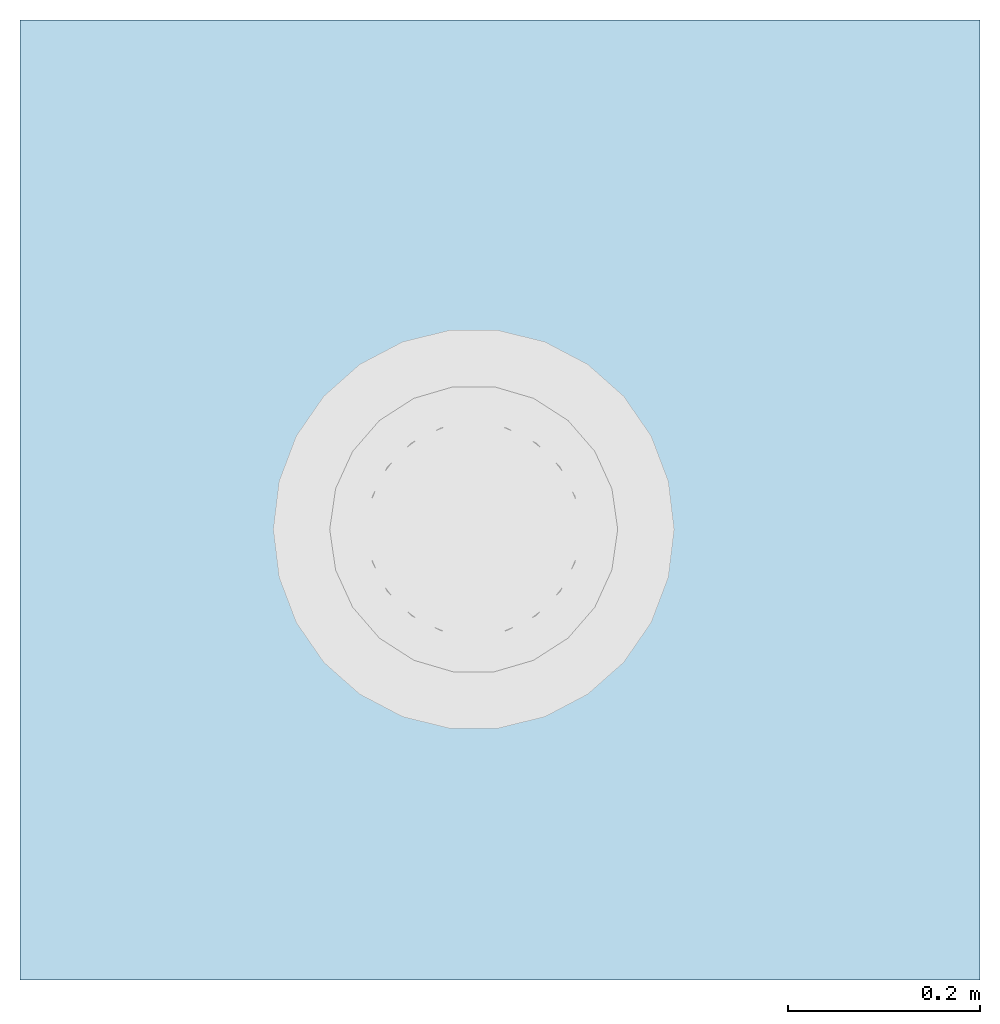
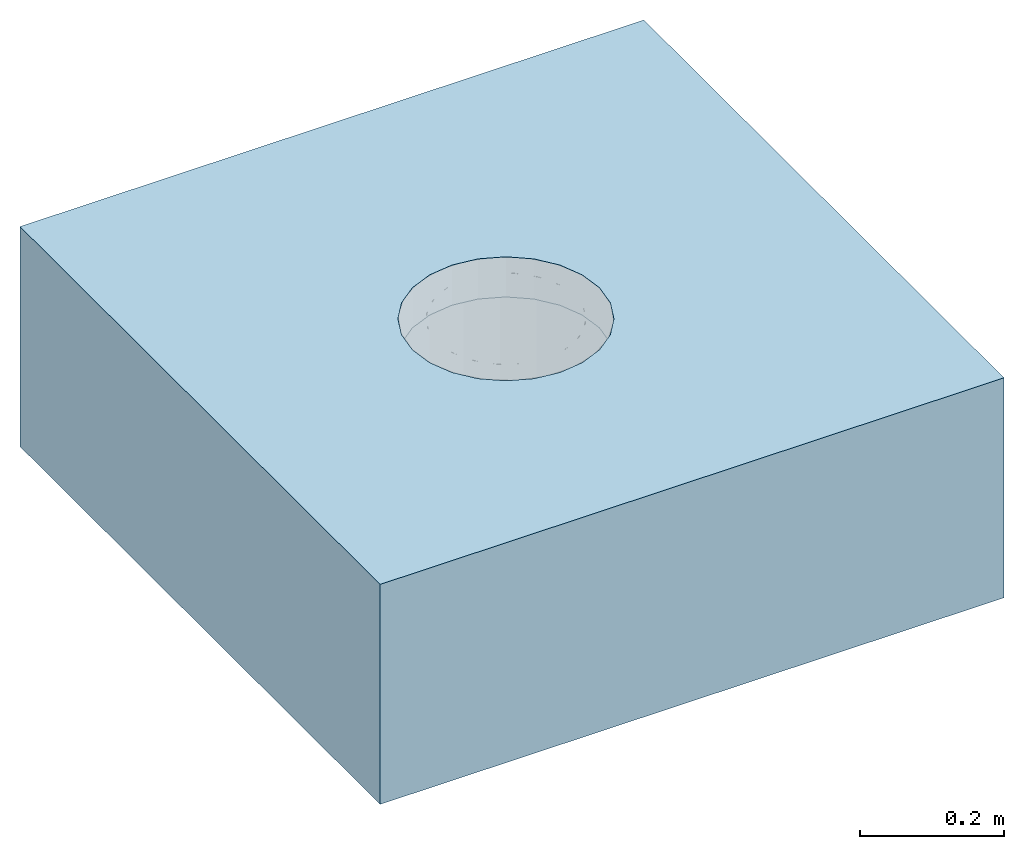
# One storey, incomplete: 1 slab, 1 opening.
"""IFC2X3 building model written with IfcOpenShell, lengths in millimetres."""

from ifc_helpers import new_model, entity, si_unit, converted_unit, derived_unit, direction, frame, frame_2d, origin, place, context, subcontext, project, spatial, rectangle, extrude, faceted_brep, material, layer, layer_set, layer_usage, element, save


model = new_model("IFC2X3")

# Units and contexts
model_context = context("Model", 3, precision=1e-05, world=origin(), true_north=direction((2.0, 6.12303176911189e-17, 1.0)))
context_of_model = context(None, 3, precision=1e-05, world=origin(), true_north=direction((2.0, 6.12303176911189e-17, 1.0)))
body_context = subcontext(model_context, "Body", "Model", "MODEL_VIEW")
ifc_project = project(units=[si_unit("LENGTHUNIT", "METRE", prefix="MILLI"), converted_unit("AREAUNIT", "SQUARE FOOT", entity("IfcRatioMeasure", 0.09290304), si_unit("AREAUNIT", "SQUARE_METRE"), dimensions=[2, 0, 0, 0, 0, 0, 0]), converted_unit("VOLUMEUNIT", "CUBIC FOOT", entity("IfcRatioMeasure", 0.028316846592), si_unit("VOLUMEUNIT", "CUBIC_METRE"), dimensions=[3, 0, 0, 0, 0, 0, 0]), converted_unit("PLANEANGLEUNIT", "DEGREE", entity("IfcRatioMeasure", 0.0174532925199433), si_unit("PLANEANGLEUNIT", "RADIAN"), dimensions=[0, 0, 0, 0, 0, 0, 0]), si_unit("MASSUNIT", "GRAM", prefix="KILO"), si_unit("TIMEUNIT", "SECOND"), si_unit("THERMODYNAMICTEMPERATUREUNIT", "KELVIN"), derived_unit("THERMALTRANSMITTANCEUNIT", [(si_unit("MASSUNIT", "GRAM", prefix="KILO"), 1), (si_unit("THERMODYNAMICTEMPERATUREUNIT", "KELVIN"), -1), (si_unit("TIMEUNIT", "SECOND"), -3)]), derived_unit("VOLUMETRICFLOWRATEUNIT", [(si_unit("LENGTHUNIT", "METRE"), 3), (si_unit("TIMEUNIT", "SECOND"), -1)]), si_unit("POWERUNIT", "WATT")], contexts=[model_context, context_of_model])

# Site, building, storey
site_placement = place(None, origin())
site = spatial("IfcSite", under=ifc_project, at=site_placement, Name="Default", CompositionType="ELEMENT")
building_placement = place(site_placement, origin())
building = spatial("IfcBuilding", under=site, at=building_placement, CompositionType="ELEMENT")
storey_placement = place(building_placement, origin())
storey = spatial("IfcBuildingStorey", under=building, at=storey_placement, Name="Level 1", CompositionType="ELEMENT", Elevation=0.0)

# Slab, opening
ifc_material_1 = material(Name="Plywood, Sheathing")
ifc_layer_1 = layer(ifc_material_1, 68.0)
ifc_material_2 = material(Name="Default Floor")
ifc_layer_2 = layer(ifc_material_2, 304.8)
ifc_layer_set = layer_set([ifc_layer_1, ifc_layer_2], Name="Floor:Generic - 12\"")
ifc_layer_usage = layer_usage(ifc_layer_set, "AXIS3", "POSITIVE", 0.0)
slab_placement = place(storey_placement, frame((-10598.0627721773, 2392.60708548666, -372.8)))
slab = element("IfcSlab", 1, at=slab_placement, inside=storey, material=ifc_layer_usage, Name="Floor:Generic - 12\"", ObjectType="Floor:Generic - 12\"", PredefinedType="FLOOR", context=body_context, shape_type="SweptSolid", body=[
    extrude(rectangle(XDim=1000.0, YDim=1000.0, at=frame_2d((0.0, 0.0), x_axis=(0.0, -1.0))), frame((500.0, 500.0, 372.8), z_axis=(0.0, 0.0, -1.0), x_axis=(-1.0, 0.0, 0.0)), (0.0, 0.0, 1.0), 372.8),
])
opening_placement = place(slab_placement, frame((260.091003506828, 255.377960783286, 36.7999999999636)))
element("IfcOpeningElement", 2, at=opening_placement, cuts=slab, ObjectType="Recess", context=body_context, shape_type="Brep", body=[
    faceted_brep([(357.432614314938, 175.272996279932, 336.0), (212.545907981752, 64.097516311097, 336.0), (251.368183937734, 69.2085659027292, 336.0), (318.610338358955, 108.030841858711, 336.0), (287.544785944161, 84.1934050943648, 336.0), (342.447775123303, 139.096394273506, 336.0), (106.481477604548, 108.030841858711, 336.0), (357.432614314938, 252.917548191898, 336.0), (137.547030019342, 84.1934050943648, 336.0), (173.723632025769, 69.2085659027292, 336.0), (82.6440408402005, 139.096394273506, 336.0), (62.5481520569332, 214.095272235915, 336.0), (67.6592016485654, 175.272996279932, 336.0), (67.6592016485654, 252.917548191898, 336.0), (318.610338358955, 320.159702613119, 336.0), (342.447775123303, 289.094150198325, 336.0), (287.544785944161, 343.997139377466, 336.0), (251.368183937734, 358.981978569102, 336.0), (137.547030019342, 343.997139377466, 336.0), (106.481477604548, 320.159702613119, 336.0), (82.6440408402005, 289.094150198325, 336.0), (212.545907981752, 364.093028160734, 336.0), (173.723632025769, 358.981978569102, 336.0), (362.54366390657, 214.095272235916, 336.0), (357.432614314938, 252.917548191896, 268.0), (342.447775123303, 289.094150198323, 268.0), (362.54366390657, 214.095272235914, 268.0), (287.544785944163, 343.997139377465, 268.0), (251.368183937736, 358.981978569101, 268.0), (318.610338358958, 320.159702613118, 268.0), (212.545907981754, 364.093028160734, 268.0), (173.723632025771, 358.981978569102, 268.0), (137.547030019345, 343.997139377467, 268.0), (82.6440408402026, 289.094150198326, 268.0), (67.6592016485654, 252.917548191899, 268.0), (106.481477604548, 320.15970261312, 268.0), (62.5481520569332, 214.095272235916, 268.0), (67.6592016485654, 175.272996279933, 268.0), (82.6440408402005, 139.096394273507, 268.0), (137.547030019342, 84.1934050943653, 268.0), (173.723632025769, 69.2085659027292, 268.0), (106.481477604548, 108.030841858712, 268.0), (212.54590798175, 64.097516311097, 268.0), (251.368183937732, 69.2085659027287, 268.0), (287.544785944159, 84.1934050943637, 268.0), (318.610338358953, 108.03084185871, 268.0), (342.447775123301, 139.096394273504, 268.0), (357.432614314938, 175.27299627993, 268.0), (1.5952722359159, 188.48122768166, 0.0), (1.5952722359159, 239.709316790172, 0.0), (13.8549564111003, 289.448810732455, 0.0), (37.6618364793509, 334.809030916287, 0.0), (113.79223392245, 25.9358667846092, 0.0), (387.429979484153, 93.3815135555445, 0.0), (113.79223392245, 402.254677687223, 0.0), (71.6323431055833, 373.153806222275, 0.0), (13.8549564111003, 138.741733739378, 0.0), (37.6618364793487, 93.3815135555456, 0.0), (71.6323431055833, 55.036738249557, 0.0), (212.545907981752, 1.59527223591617, 0.0), (161.691329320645, 7.77013603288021, 0.0), (161.691329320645, 420.420408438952, 0.0), (353.459472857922, 373.153806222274, 0.0), (212.545907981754, 426.595272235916, 0.0), (263.400486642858, 420.420408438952, 0.0), (311.299582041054, 402.254677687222, 0.0), (423.496543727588, 188.481227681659, 0.0), (387.429979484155, 334.809030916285, 0.0), (423.496543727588, 239.709316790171, 0.0), (411.236859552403, 289.448810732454, 0.0), (263.400486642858, 7.77013603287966, 0.0), (353.45947285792, 55.0367382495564, 0.0), (311.299582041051, 25.9358667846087, 0.0), (411.236859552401, 138.741733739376, 0.0), (411.236859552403, 289.448810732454, 268.0), (387.429979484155, 334.809030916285, 268.0), (423.496543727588, 239.709316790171, 268.0), (353.459472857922, 373.153806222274, 268.0), (311.299582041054, 402.254677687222, 268.0), (263.400486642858, 420.420408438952, 268.0), (212.545907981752, 426.595272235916, 268.0), (423.496543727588, 188.481227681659, 268.0), (411.236859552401, 138.741733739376, 268.0), (387.429979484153, 93.3815135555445, 268.0), (353.45947285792, 55.0367382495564, 268.0), (311.299582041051, 25.9358667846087, 268.0), (263.400486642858, 7.77013603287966, 268.0), (212.545907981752, 1.59527223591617, 268.0), (161.691329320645, 420.420408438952, 268.0), (113.79223392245, 402.254677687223, 268.0), (71.6323431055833, 373.153806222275, 268.0), (37.6618364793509, 334.809030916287, 268.0), (13.8549564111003, 289.448810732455, 268.0), (1.5952722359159, 239.709316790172, 268.0), (113.79223392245, 25.9358667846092, 268.0), (71.6323431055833, 55.036738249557, 268.0), (161.691329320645, 7.77013603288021, 268.0), (1.5952722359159, 188.48122768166, 268.0), (13.8549564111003, 138.741733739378, 268.0), (37.6618364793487, 93.3815135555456, 268.0)], [[[0, 1, 2]], [[3, 2, 4]], [[3, 5, 0]], [[3, 0, 2]], [[6, 1, 7]], [[1, 8, 9]], [[1, 6, 8]], [[10, 11, 12]], [[11, 10, 6]], [[6, 13, 11]], [[7, 1, 0]], [[13, 6, 7]], [[14, 7, 15]], [[14, 16, 17]], [[7, 14, 18]], [[17, 18, 14]], [[13, 19, 20]], [[19, 13, 18]], [[18, 21, 22]], [[18, 13, 7]], [[17, 21, 18]], [[7, 0, 23]], [[24, 25, 15]], [[26, 24, 7]], [[27, 28, 17]], [[29, 27, 16]], [[25, 29, 14]], [[24, 15, 7]], [[7, 23, 26]], [[14, 15, 25]], [[14, 29, 16]], [[16, 27, 17]], [[21, 17, 28]], [[28, 30, 21]], [[22, 30, 31]], [[22, 31, 32]], [[33, 34, 20]], [[35, 33, 19]], [[32, 35, 18]], [[22, 32, 18]], [[18, 35, 19]], [[34, 13, 20]], [[20, 19, 33]], [[11, 13, 36]], [[34, 36, 13]], [[30, 22, 21]], [[37, 38, 10]], [[36, 37, 12]], [[39, 40, 9]], [[41, 39, 8]], [[38, 41, 6]], [[37, 10, 12]], [[12, 11, 36]], [[9, 8, 39]], [[6, 41, 8]], [[6, 10, 38]], [[1, 9, 40]], [[40, 42, 1]], [[4, 43, 44]], [[2, 42, 43]], [[3, 45, 46]], [[45, 4, 44]], [[5, 46, 47]], [[2, 43, 4]], [[4, 45, 3]], [[47, 0, 5]], [[5, 3, 46]], [[23, 0, 26]], [[47, 26, 0]], [[42, 2, 1]], [[48, 49, 50]], [[51, 48, 50]], [[52, 51, 53]], [[54, 51, 55]], [[53, 51, 54]], [[56, 52, 57]], [[52, 56, 48]], [[58, 57, 52]], [[59, 60, 52]], [[51, 52, 48]], [[52, 53, 59]], [[54, 61, 53]], [[62, 63, 64]], [[62, 64, 65]], [[66, 62, 67]], [[62, 53, 63]], [[68, 67, 69]], [[70, 71, 72]], [[70, 59, 71]], [[66, 73, 62]], [[53, 62, 73]], [[59, 53, 71]], [[66, 67, 68]], [[53, 61, 63]], [[25, 74, 75]], [[29, 25, 75]], [[74, 24, 76]], [[24, 74, 25]], [[76, 24, 26]], [[75, 77, 29]], [[28, 78, 79]], [[30, 79, 80]], [[28, 79, 30]], [[29, 77, 27]], [[28, 27, 78]], [[27, 77, 78]], [[81, 26, 47]], [[26, 81, 76]], [[81, 47, 82]], [[82, 46, 83]], [[84, 83, 45]], [[46, 82, 47]], [[44, 85, 84]], [[44, 84, 45]], [[86, 85, 43]], [[43, 42, 86]], [[85, 44, 43]], [[86, 42, 87]], [[45, 83, 46]], [[30, 88, 31]], [[31, 88, 89]], [[32, 31, 89]], [[90, 35, 32]], [[32, 89, 90]], [[35, 91, 33]], [[33, 91, 92]], [[92, 34, 33]], [[34, 92, 93]], [[34, 93, 36]], [[91, 35, 90]], [[94, 39, 95]], [[40, 39, 94]], [[96, 87, 42]], [[96, 40, 94]], [[39, 41, 95]], [[42, 40, 96]], [[37, 36, 97]], [[97, 36, 93]], [[37, 97, 98]], [[99, 41, 38]], [[41, 99, 95]], [[98, 99, 38]], [[38, 37, 98]], [[30, 80, 88]], [[87, 59, 70]], [[72, 86, 70]], [[53, 73, 83]], [[84, 71, 53]], [[85, 72, 71]], [[82, 73, 66]], [[70, 86, 87]], [[72, 85, 86]], [[71, 84, 85]], [[53, 83, 84]], [[82, 83, 73]], [[66, 81, 82]], [[66, 68, 81]], [[76, 68, 69]], [[67, 74, 69]], [[65, 64, 78]], [[77, 62, 65]], [[75, 67, 62]], [[79, 64, 63]], [[69, 74, 76]], [[67, 75, 74]], [[62, 77, 75]], [[65, 78, 77]], [[79, 78, 64]], [[63, 80, 79]], [[68, 76, 81]], [[88, 63, 61]], [[88, 61, 54]], [[91, 51, 50]], [[90, 55, 51]], [[90, 54, 55]], [[92, 50, 49]], [[63, 88, 80]], [[88, 54, 89]], [[90, 51, 91]], [[91, 50, 92]], [[89, 54, 90]], [[93, 92, 49]], [[49, 48, 93]], [[97, 48, 56]], [[57, 98, 56]], [[52, 60, 94]], [[95, 58, 52]], [[99, 57, 58]], [[96, 60, 59]], [[56, 98, 97]], [[57, 99, 98]], [[58, 95, 99]], [[52, 94, 95]], [[96, 94, 60]], [[59, 87, 96]], [[48, 97, 93]]]),
])

save(model, "model.ifc")
